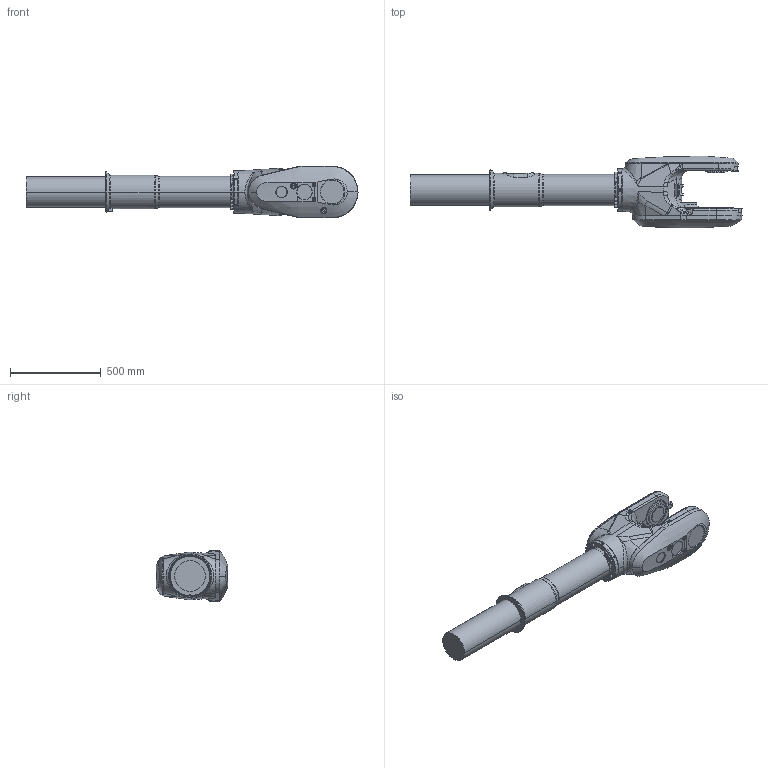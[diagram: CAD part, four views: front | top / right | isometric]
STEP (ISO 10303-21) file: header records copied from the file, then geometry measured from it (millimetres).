
FILE_DESCRIPTION (( 'STEP AP214' ), '1' );
FILE_NAME ('IRB6720-LID_150kg-310_OC_00_LINK04_CAD.step', '2026-05-26T07:55:55', ( '' ), ( '' ), 'SwSTEP 2.0', 'SolidWorks 2024', '' );
FILE_SCHEMA (( 'AUTOMOTIVE_DESIGN' ));
Length unit declared in the file: millimetre
Products named in the file (1): IRB6720-LID_150kg-310_OC_00_LINK04_CAD
Bounding box: 1830.5 x 396.47 x 284 mm (x, y, z)
Volume: 65444687.2 mm3; surface area: 1572234.5 mm2
Topology: 1 solids, 2 shells, 727 faces, 1804 edges, 1124 vertices
Faces by surface type: plane 307, cylinder 173, cone 122, bspline 90, torus 35
Entity records: 41979 total; most frequent: CARTESIAN_POINT 17950, ORIENTED_EDGE 3560, DIRECTION 3007, EDGE_CURVE 1780, VERTEX_POINT 1124, AXIS2_PLACEMENT_3D 1108, EDGE_LOOP 798, VECTOR 791
